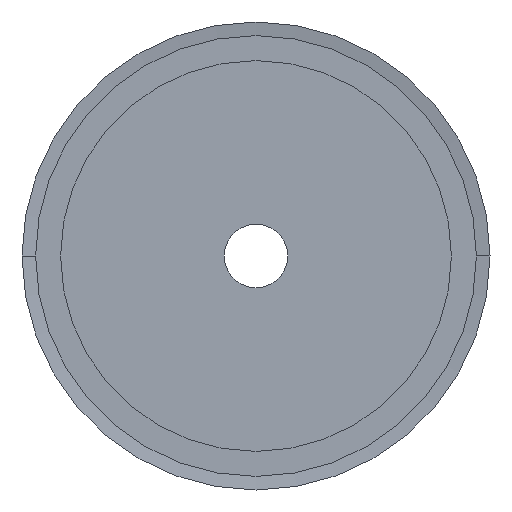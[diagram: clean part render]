
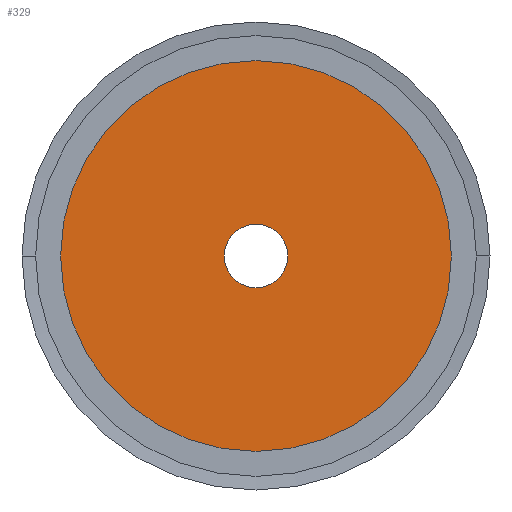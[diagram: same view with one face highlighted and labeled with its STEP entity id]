
A CAD part, left-side view. The second image highlights one B-rep face of the part: STEP entity #329.
In plain terms, the highlighted planar face has unit normal (-1, 0, 0).
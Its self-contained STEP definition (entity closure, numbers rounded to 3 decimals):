
#329 = ADVANCED_FACE( '', ( #845, #846 ), #847, .T. );
#845 = FACE_BOUND( '', #1362, .T. );
#846 = FACE_OUTER_BOUND( '', #1363, .T. );
#847 = PLANE( '', #1364 );
#1362 = EDGE_LOOP( '', ( #3595, #3596 ) );
#1363 = EDGE_LOOP( '', ( #3597, #3598 ) );
#1364 = AXIS2_PLACEMENT_3D( '', #3599, #3600, #3601 );
#3595 = ORIENTED_EDGE( '', *, *, #3641, .T. );
#3596 = ORIENTED_EDGE( '', *, *, #3637, .T. );
#3597 = ORIENTED_EDGE( '', *, *, #3605, .T. );
#3598 = ORIENTED_EDGE( '', *, *, #4337, .T. );
#3599 = CARTESIAN_POINT( '', ( 0., 21.5, 0. ) );
#3600 = DIRECTION( '', ( -1., 0., 0. ) );
#3601 = DIRECTION( '', ( 0., 1., 0. ) );
#3605 = EDGE_CURVE( '', #4339, #4343, #4345, .T. );
#3637 = EDGE_CURVE( '', #4403, #4400, #4404, .T. );
#3641 = EDGE_CURVE( '', #4400, #4403, #4409, .T. );
#4337 = EDGE_CURVE( '', #4343, #4339, #5561, .T. );
#4339 = VERTEX_POINT( '', #5563 );
#4343 = VERTEX_POINT( '', #5568 );
#4345 = CIRCLE( '', #5571, 43. );
#4400 = VERTEX_POINT( '', #5642 );
#4403 = VERTEX_POINT( '', #5646 );
#4404 = CIRCLE( '', #5647, 7. );
#4409 = CIRCLE( '', #5653, 7. );
#5561 = CIRCLE( '', #7185, 43. );
#5563 = CARTESIAN_POINT( '', ( 0., 43., 0. ) );
#5568 = CARTESIAN_POINT( '', ( 0., -43., 0. ) );
#5571 = AXIS2_PLACEMENT_3D( '', #7191, #7192, #7193 );
#5642 = CARTESIAN_POINT( '', ( 0., 7., 0. ) );
#5646 = CARTESIAN_POINT( '', ( 0., -7., 0. ) );
#5647 = AXIS2_PLACEMENT_3D( '', #7253, #7254, #7255 );
#5653 = AXIS2_PLACEMENT_3D( '', #7263, #7264, #7265 );
#7185 = AXIS2_PLACEMENT_3D( '', #8591, #8592, #8593 );
#7191 = CARTESIAN_POINT( '', ( 0., 0., 0. ) );
#7192 = DIRECTION( '', ( -1., 0., 0. ) );
#7193 = DIRECTION( '', ( 0., 1., 0. ) );
#7253 = CARTESIAN_POINT( '', ( 0., 0., 0. ) );
#7254 = DIRECTION( '', ( 1., 0., 0. ) );
#7255 = DIRECTION( '', ( 0., 1., 0. ) );
#7263 = CARTESIAN_POINT( '', ( 0., 0., 0. ) );
#7264 = DIRECTION( '', ( 1., 0., 0. ) );
#7265 = DIRECTION( '', ( 0., 1., 0. ) );
#8591 = CARTESIAN_POINT( '', ( 0., 0., 0. ) );
#8592 = DIRECTION( '', ( -1., 0., 0. ) );
#8593 = DIRECTION( '', ( 0., 1., 0. ) );
